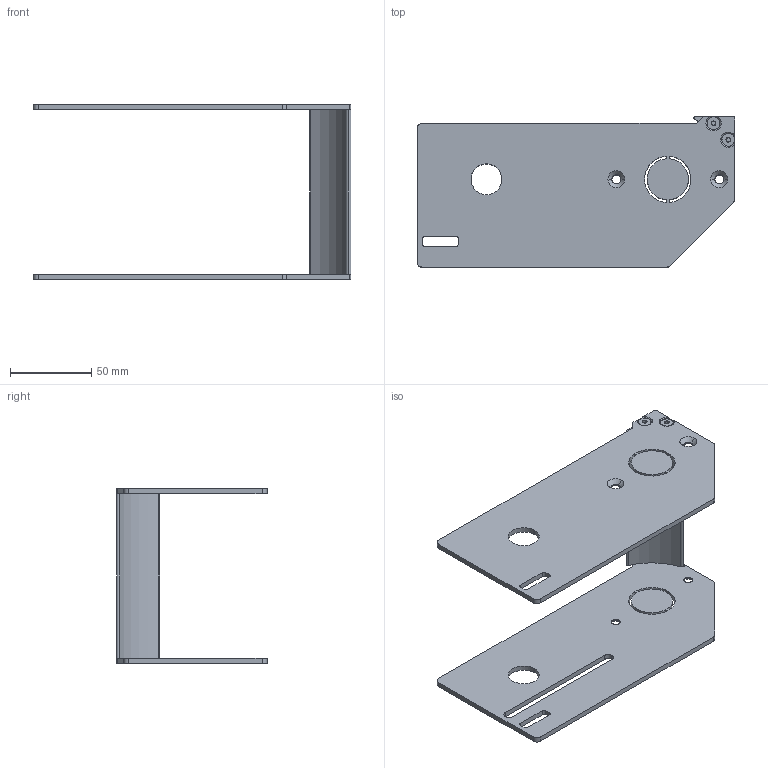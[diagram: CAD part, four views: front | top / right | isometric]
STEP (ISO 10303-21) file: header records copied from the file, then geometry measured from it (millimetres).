
FILE_DESCRIPTION (( 'STEP AP203' ), '1' );
FILE_NAME ('27m3301-04.STEP', '2017-04-11T18:24:49', ( '' ), ( '' ), 'SwSTEP 2.0', 'SolidWorks 2015', '' );
FILE_SCHEMA (( 'CONFIG_CONTROL_DESIGN' ));
Length unit declared in the file: inch
Products named in the file (5): 350539-WW_350539-04; 27m3301-04; 350538; 9304XXM_930410M; 350537
Assembly tree (7 placements, depth 2):
  27m3301-04
    350539-WW_350539-04
    350537
    350538
    9304XXM_930410M  x4
Bounding box: 196.06 x 92.74 x 107.59 mm (x, y, z)
Volume: 128383.3 mm3; surface area: 81643 mm2
Topology: 7 solids, 7 shells, 216 faces, 518 edges, 316 vertices
Faces by surface type: cylinder 80, plane 76, cone 60
Entity records: 5278 total; most frequent: CARTESIAN_POINT 882, DIRECTION 841, ORIENTED_EDGE 766, EDGE_CURVE 383, AXIS2_PLACEMENT_3D 317, VERTEX_POINT 244, LINE 207, VECTOR 207
